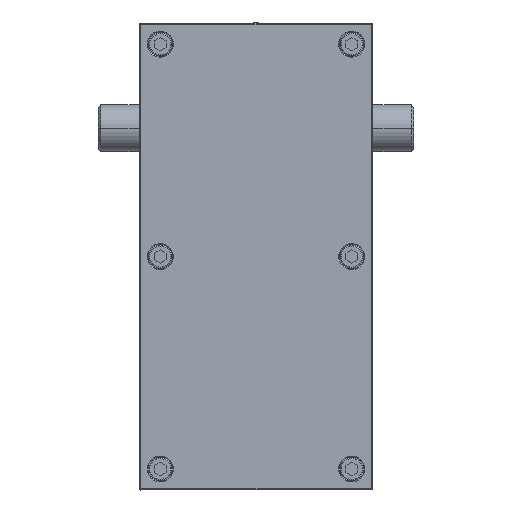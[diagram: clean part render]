
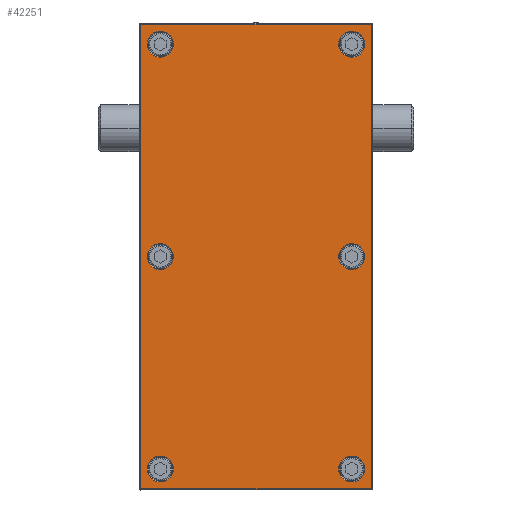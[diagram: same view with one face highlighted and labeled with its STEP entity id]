
A CAD part, front view. The second image highlights one B-rep face of the part: STEP entity #42251.
In plain terms, the highlighted planar face has unit normal (0, -1, 0).
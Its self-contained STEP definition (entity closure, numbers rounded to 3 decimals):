
#40868=CARTESIAN_POINT('',(99.,-7.,-49.));
#40869=DIRECTION('',(0.,-1.,0.));
#40870=DIRECTION('',(0.,0.,-1.));
#40871=AXIS2_PLACEMENT_3D('',#40868,#40869,#40870);
#40873=DIRECTION('',(1.,0.,0.));
#40874=VECTOR('',#40873,198.);
#40875=CARTESIAN_POINT('',(-99.,-7.,
-49.5));
#40876=LINE('',#40875,#40874);
#40877=CARTESIAN_POINT('',(-99.,-7.,-49.));
#40878=DIRECTION('',(0.,-1.,0.));
#40879=DIRECTION('',(-1.,0.,0.));
#40880=AXIS2_PLACEMENT_3D('',#40877,#40878,#40879);
#40882=DIRECTION('',(0.,0.,-1.));
#40883=VECTOR('',#40882,98.);
#40884=CARTESIAN_POINT('',(-99.5,-7.,
49.));
#40885=LINE('',#40884,#40883);
#40886=CARTESIAN_POINT('',(-99.,-7.,49.));
#40887=DIRECTION('',(0.,-1.,0.));
#40888=DIRECTION('',(0.,0.,1.));
#40889=AXIS2_PLACEMENT_3D('',#40886,#40887,#40888);
#40891=DIRECTION('',(-1.,0.,0.));
#40892=VECTOR('',#40891,198.);
#40893=CARTESIAN_POINT('',(99.,-7.,
49.5));
#40894=LINE('',#40893,#40892);
#40895=CARTESIAN_POINT('',(99.,-7.,49.));
#40896=DIRECTION('',(0.,-1.,0.));
#40897=DIRECTION('',(1.,0.,0.));
#40898=AXIS2_PLACEMENT_3D('',#40895,#40896,#40897);
#40900=DIRECTION('',(0.,0.,1.));
#40901=VECTOR('',#40900,98.);
#40902=CARTESIAN_POINT('',(99.5,-7.,
-49.));
#40903=LINE('',#40902,#40901);
#40904=CARTESIAN_POINT('',(-91.,-7.,-41.));
#40905=DIRECTION('',(0.,1.,0.));
#40906=DIRECTION('',(1.,0.,0.));
#40907=AXIS2_PLACEMENT_3D('',#40904,#40905,#40906);
#40909=CARTESIAN_POINT('',(-91.,-7.,-41.));
#40910=DIRECTION('',(0.,1.,0.));
#40911=DIRECTION('',(-1.,0.,0.));
#40912=AXIS2_PLACEMENT_3D('',#40909,#40910,#40911);
#40914=CARTESIAN_POINT('',(0.,-7.,-41.));
#40915=DIRECTION('',(0.,1.,0.));
#40916=DIRECTION('',(1.,0.,0.));
#40917=AXIS2_PLACEMENT_3D('',#40914,#40915,#40916);
#40919=CARTESIAN_POINT('',(0.,-7.,-41.));
#40920=DIRECTION('',(0.,1.,0.));
#40921=DIRECTION('',(-1.,0.,0.));
#40922=AXIS2_PLACEMENT_3D('',#40919,#40920,#40921);
#40924=CARTESIAN_POINT('',(91.,-7.,-41.));
#40925=DIRECTION('',(0.,1.,0.));
#40926=DIRECTION('',(1.,0.,0.));
#40927=AXIS2_PLACEMENT_3D('',#40924,#40925,#40926);
#40929=CARTESIAN_POINT('',(91.,-7.,-41.));
#40930=DIRECTION('',(0.,1.,0.));
#40931=DIRECTION('',(-1.,0.,0.));
#40932=AXIS2_PLACEMENT_3D('',#40929,#40930,#40931);
#40934=CARTESIAN_POINT('',(91.,-7.,41.));
#40935=DIRECTION('',(0.,1.,0.));
#40936=DIRECTION('',(1.,0.,0.));
#40937=AXIS2_PLACEMENT_3D('',#40934,#40935,#40936);
#40939=CARTESIAN_POINT('',(91.,-7.,41.));
#40940=DIRECTION('',(0.,1.,0.));
#40941=DIRECTION('',(-1.,0.,0.));
#40942=AXIS2_PLACEMENT_3D('',#40939,#40940,#40941);
#40944=CARTESIAN_POINT('',(0.,-7.,41.));
#40945=DIRECTION('',(0.,1.,0.));
#40946=DIRECTION('',(1.,0.,0.));
#40947=AXIS2_PLACEMENT_3D('',#40944,#40945,#40946);
#40949=CARTESIAN_POINT('',(0.,-7.,41.));
#40950=DIRECTION('',(0.,1.,0.));
#40951=DIRECTION('',(-1.,0.,0.));
#40952=AXIS2_PLACEMENT_3D('',#40949,#40950,#40951);
#40954=CARTESIAN_POINT('',(-91.,-7.,41.));
#40955=DIRECTION('',(0.,1.,0.));
#40956=DIRECTION('',(1.,0.,0.));
#40957=AXIS2_PLACEMENT_3D('',#40954,#40955,#40956);
#40959=CARTESIAN_POINT('',(-91.,-7.,41.));
#40960=DIRECTION('',(0.,1.,0.));
#40961=DIRECTION('',(-1.,0.,0.));
#40962=AXIS2_PLACEMENT_3D('',#40959,#40960,#40961);
#41992=CARTESIAN_POINT('',(99.,-7.,-49.5));
#41993=CARTESIAN_POINT('',(99.5,-7.,-49.));
#41994=VERTEX_POINT('',#41992);
#41995=VERTEX_POINT('',#41993);
#42000=CARTESIAN_POINT('',(99.5,-7.,
49.));
#42001=VERTEX_POINT('',#42000);
#42004=CARTESIAN_POINT('',(99.,-7.,49.5));
#42005=VERTEX_POINT('',#42004);
#42008=CARTESIAN_POINT('',(-99.,-7.,
49.5));
#42009=VERTEX_POINT('',#42008);
#42012=CARTESIAN_POINT('',(-99.5,-7.,49.));
#42013=VERTEX_POINT('',#42012);
#42016=CARTESIAN_POINT('',(-99.5,-7.,
-49.));
#42017=VERTEX_POINT('',#42016);
#42020=CARTESIAN_POINT('',(-99.,-7.,-49.5));
#42021=VERTEX_POINT('',#42020);
#42048=CARTESIAN_POINT('',(-85.45,-7.,-41.));
#42049=CARTESIAN_POINT('',(-96.55,-7.,-41.));
#42050=VERTEX_POINT('',#42048);
#42051=VERTEX_POINT('',#42049);
#42064=CARTESIAN_POINT('',(5.55,-7.,-41.));
#42065=CARTESIAN_POINT('',(-5.55,-7.,-41.));
#42066=VERTEX_POINT('',#42064);
#42067=VERTEX_POINT('',#42065);
#42088=CARTESIAN_POINT('',(96.55,-7.,-41.));
#42089=CARTESIAN_POINT('',(85.45,-7.,-41.));
#42090=VERTEX_POINT('',#42088);
#42091=VERTEX_POINT('',#42089);
#42104=CARTESIAN_POINT('',(96.55,-7.,41.));
#42105=CARTESIAN_POINT('',(85.45,-7.,41.));
#42106=VERTEX_POINT('',#42104);
#42107=VERTEX_POINT('',#42105);
#42112=CARTESIAN_POINT('',(5.55,-7.,41.));
#42113=CARTESIAN_POINT('',(-5.55,-7.,41.));
#42114=VERTEX_POINT('',#42112);
#42115=VERTEX_POINT('',#42113);
#42136=CARTESIAN_POINT('',(-85.45,-7.,41.));
#42137=CARTESIAN_POINT('',(-96.55,-7.,41.));
#42138=VERTEX_POINT('',#42136);
#42139=VERTEX_POINT('',#42137);
#42192=CARTESIAN_POINT('',(0.,-7.,0.));
#42193=DIRECTION('',(0.,1.,0.));
#42194=DIRECTION('',(1.,0.,0.));
#42195=AXIS2_PLACEMENT_3D('',#42192,#42193,#42194);
#42196=PLANE('',#42195);
#42198=ORIENTED_EDGE('',*,*,#42197,.F.);
#42200=ORIENTED_EDGE('',*,*,#42199,.F.);
#42202=ORIENTED_EDGE('',*,*,#42201,.F.);
#42204=ORIENTED_EDGE('',*,*,#42203,.F.);
#42206=ORIENTED_EDGE('',*,*,#42205,.F.);
#42208=ORIENTED_EDGE('',*,*,#42207,.F.);
#42210=ORIENTED_EDGE('',*,*,#42209,.F.);
#42212=ORIENTED_EDGE('',*,*,#42211,.F.);
#42213=EDGE_LOOP('',(#42198,#42200,#42202,#42204,#42206,#42208,#42210,#42212));
#42214=FACE_OUTER_BOUND('',#42213,.F.);
#42216=ORIENTED_EDGE('',*,*,#42215,.F.);
#42218=ORIENTED_EDGE('',*,*,#42217,.F.);
#42219=EDGE_LOOP('',(#42216,#42218));
#42220=FACE_BOUND('',#42219,.F.);
#42222=ORIENTED_EDGE('',*,*,#42221,.F.);
#42224=ORIENTED_EDGE('',*,*,#42223,.F.);
#42225=EDGE_LOOP('',(#42222,#42224));
#42226=FACE_BOUND('',#42225,.F.);
#42228=ORIENTED_EDGE('',*,*,#42227,.F.);
#42230=ORIENTED_EDGE('',*,*,#42229,.F.);
#42231=EDGE_LOOP('',(#42228,#42230));
#42232=FACE_BOUND('',#42231,.F.);
#42234=ORIENTED_EDGE('',*,*,#42233,.F.);
#42236=ORIENTED_EDGE('',*,*,#42235,.F.);
#42237=EDGE_LOOP('',(#42234,#42236));
#42238=FACE_BOUND('',#42237,.F.);
#42240=ORIENTED_EDGE('',*,*,#42239,.F.);
#42242=ORIENTED_EDGE('',*,*,#42241,.F.);
#42243=EDGE_LOOP('',(#42240,#42242));
#42244=FACE_BOUND('',#42243,.F.);
#42246=ORIENTED_EDGE('',*,*,#42245,.F.);
#42248=ORIENTED_EDGE('',*,*,#42247,.F.);
#42249=EDGE_LOOP('',(#42246,#42248));
#42250=FACE_BOUND('',#42249,.F.);
#42251=ADVANCED_FACE('',(#42214,#42220,#42226,#42232,#42238,#42244,#42250),
#42196,.F.);
#40872=CIRCLE('',#40871,0.5);
#40881=CIRCLE('',#40880,0.5);
#40890=CIRCLE('',#40889,0.5);
#40899=CIRCLE('',#40898,0.5);
#40908=CIRCLE('',#40907,5.55);
#40913=CIRCLE('',#40912,5.55);
#40918=CIRCLE('',#40917,5.55);
#40923=CIRCLE('',#40922,5.55);
#40928=CIRCLE('',#40927,5.55);
#40933=CIRCLE('',#40932,5.55);
#40938=CIRCLE('',#40937,5.55);
#40943=CIRCLE('',#40942,5.55);
#40948=CIRCLE('',#40947,5.55);
#40953=CIRCLE('',#40952,5.55);
#40958=CIRCLE('',#40957,5.55);
#40963=CIRCLE('',#40962,5.55);
#42197=EDGE_CURVE('',#41994,#41995,#40872,.T.);
#42199=EDGE_CURVE('',#42021,#41994,#40876,.T.);
#42201=EDGE_CURVE('',#42017,#42021,#40881,.T.);
#42203=EDGE_CURVE('',#42013,#42017,#40885,.T.);
#42205=EDGE_CURVE('',#42009,#42013,#40890,.T.);
#42207=EDGE_CURVE('',#42005,#42009,#40894,.T.);
#42209=EDGE_CURVE('',#42001,#42005,#40899,.T.);
#42211=EDGE_CURVE('',#41995,#42001,#40903,.T.);
#42215=EDGE_CURVE('',#42050,#42051,#40908,.T.);
#42217=EDGE_CURVE('',#42051,#42050,#40913,.T.);
#42221=EDGE_CURVE('',#42066,#42067,#40918,.T.);
#42223=EDGE_CURVE('',#42067,#42066,#40923,.T.);
#42227=EDGE_CURVE('',#42090,#42091,#40928,.T.);
#42229=EDGE_CURVE('',#42091,#42090,#40933,.T.);
#42233=EDGE_CURVE('',#42106,#42107,#40938,.T.);
#42235=EDGE_CURVE('',#42107,#42106,#40943,.T.);
#42239=EDGE_CURVE('',#42114,#42115,#40948,.T.);
#42241=EDGE_CURVE('',#42115,#42114,#40953,.T.);
#42245=EDGE_CURVE('',#42138,#42139,#40958,.T.);
#42247=EDGE_CURVE('',#42139,#42138,#40963,.T.);
